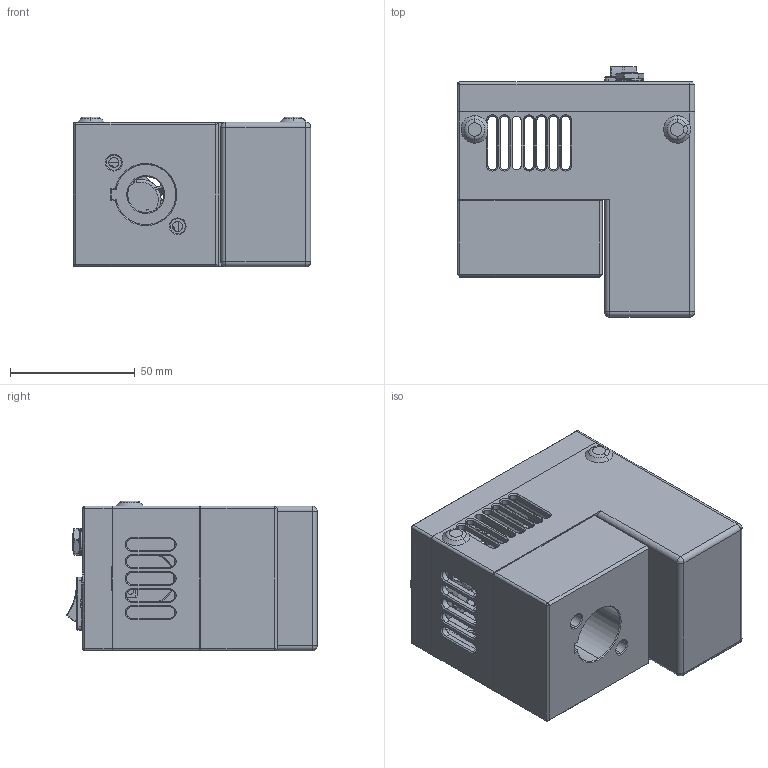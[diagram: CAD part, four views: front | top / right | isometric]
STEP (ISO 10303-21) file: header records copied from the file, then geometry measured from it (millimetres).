
FILE_DESCRIPTION (( 'STEP AP214' ), '1' );
FILE_NAME ('CELL-LED-550-3 Light source.STEP', '2025-04-14T14:17:40', ( '' ), ( '' ), 'SwSTEP 2.0', 'SolidWorks 2014', '' );
FILE_SCHEMA (( 'AUTOMOTIVE_DESIGN' ));
Length unit declared in the file: millimetre
Products named in the file (15): Bolt; CENTERING; Spring Shaiba; HOUSING FRONT; CELL-LED-550-3 Light source; BASE COLLIMATING; HOUSING; CHC M3x30; Mini Rocker 4-Pin Switch; COPAL F310R 30x30x10; PRT0001; HOUSING CLOSURE; DC Power Jack 5.5 2.1 Body; 410020030002; DC Power Jack 5.5 2.1 Assembly
Assembly tree (15 placements, depth 3):
  CELL-LED-550-3 Light source
    HOUSING FRONT
    CENTERING  x2
    HOUSING
    CHC M3x30
    COPAL F310R 30x30x10
      410020030002
      PRT0001
    BASE COLLIMATING
    DC Power Jack 5.5 2.1 Assembly
      DC Power Jack 5.5 2.1 Body
      Bolt
      Spring Shaiba
    Mini Rocker 4-Pin Switch
    HOUSING CLOSURE
Bounding box: 95 x 100.13 x 60 mm (x, y, z)
Volume: 192887.8 mm3; surface area: 96096 mm2
Topology: 18 solids, 19 shells, 2007 faces, 5193 edges, 3287 vertices
Faces by surface type: plane 1040, cylinder 399, bspline 345, cone 223
Entity records: 97192 total; most frequent: CARTESIAN_POINT 35764, ORIENTED_EDGE 10260, DIRECTION 8568, EDGE_CURVE 5135, VERTEX_POINT 3269, VECTOR 3256, LINE 3256, AXIS2_PLACEMENT_3D 2656
